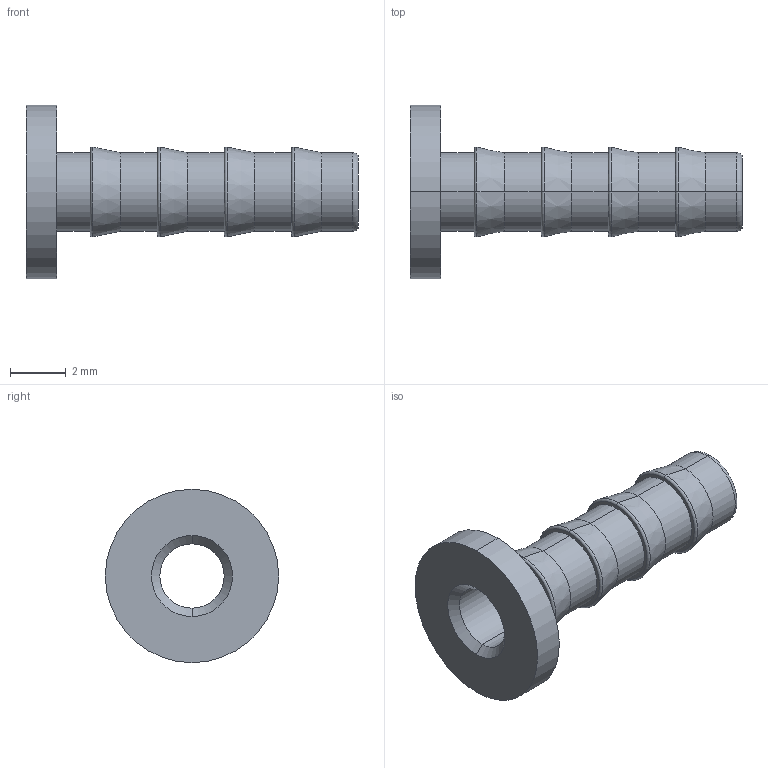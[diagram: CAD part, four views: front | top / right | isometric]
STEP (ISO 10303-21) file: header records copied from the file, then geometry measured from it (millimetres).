
FILE_DESCRIPTION (( 'STEP AP203' ), '1' );
FILE_NAME ('DTI04-02 SS.STEP', '2009-09-08T09:58:07', ( ' ' ), ( '' ), 'SwSTEP 2.0', 'SolidWorks 2008', '' );
FILE_SCHEMA (( 'CONFIG_CONTROL_DESIGN' ));
Length unit declared in the file: millimetre
Products named in the file (1): DTI04-02 SS
Bounding box: 11.88 x 6.2 x 6.2 mm (x, y, z)
Volume: 54.5 mm3; surface area: 262 mm2
Topology: 1 solids, 1 shells, 42 faces, 84 edges, 48 vertices
Faces by surface type: cylinder 14, cone 12, torus 10, plane 6
Entity records: 1175 total; most frequent: DIRECTION 228, CARTESIAN_POINT 175, ORIENTED_EDGE 168, AXIS2_PLACEMENT_3D 101, EDGE_CURVE 84, CIRCLE 58, EDGE_LOOP 48, VERTEX_POINT 48
